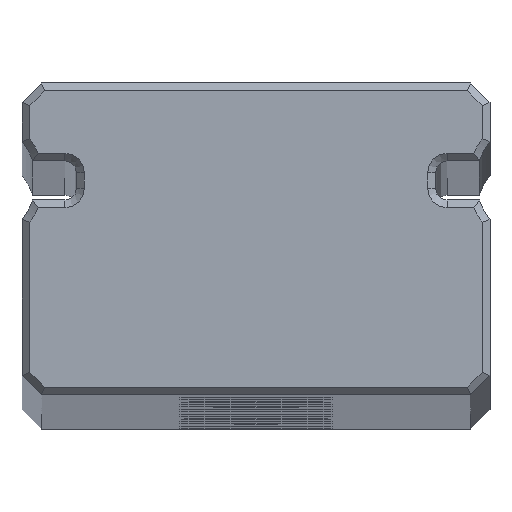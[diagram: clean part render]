
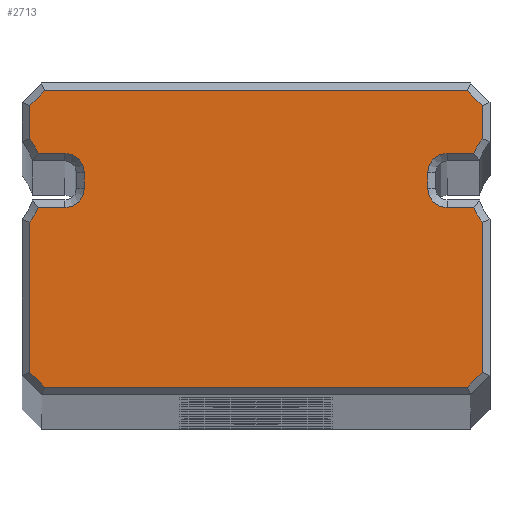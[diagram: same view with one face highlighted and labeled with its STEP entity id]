
A CAD part, top view. The second image highlights one B-rep face of the part: STEP entity #2713.
In plain terms, the highlighted planar face has unit normal (0, 0, 1).
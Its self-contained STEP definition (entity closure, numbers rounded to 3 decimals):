
#163=CIRCLE('',#2918,1.788);
#164=CIRCLE('',#2921,0.5);
#165=CIRCLE('',#2924,0.5);
#167=CIRCLE('',#2929,1.788);
#168=CIRCLE('',#2935,1.788);
#171=CIRCLE('',#2940,0.5);
#173=CIRCLE('',#2944,0.5);
#174=CIRCLE('',#2947,1.788);
#419=FACE_OUTER_BOUND('',#613,.T.);
#613=EDGE_LOOP('',(#2111,#2112,#2113,#2114,#2115,#2116,#2117,#2118,#2119,
#2120,#2121,#2122,#2123,#2124,#2125,#2126,#2127,#2128,#2129,#2130,#2131,
#2132,#2133,#2134));
#844=LINE('',#4346,#1044);
#847=LINE('',#4358,#1047);
#850=LINE('',#4366,#1050);
#852=LINE('',#4373,#1052);
#853=LINE('',#4381,#1053);
#856=LINE('',#4401,#1056);
#859=LINE('',#4407,#1059);
#863=LINE('',#4415,#1063);
#866=LINE('',#4419,#1066);
#869=LINE('',#4434,#1069);
#872=LINE('',#4445,#1072);
#875=LINE('',#4455,#1075);
#877=LINE('',#4470,#1077);
#879=LINE('',#4474,#1079);
#881=LINE('',#4478,#1081);
#883=LINE('',#4481,#1083);
#1044=VECTOR('',#3412,10.);
#1047=VECTOR('',#3421,10.);
#1050=VECTOR('',#3430,10.);
#1052=VECTOR('',#3438,10.);
#1053=VECTOR('',#3441,10.);
#1056=VECTOR('',#3452,10.);
#1059=VECTOR('',#3457,10.);
#1063=VECTOR('',#3463,10.);
#1066=VECTOR('',#3468,10.);
#1069=VECTOR('',#3479,10.);
#1072=VECTOR('',#3490,10.);
#1075=VECTOR('',#3501,10.);
#1077=VECTOR('',#3509,10.);
#1079=VECTOR('',#3513,10.);
#1081=VECTOR('',#3517,10.);
#1083=VECTOR('',#3521,10.);
#1256=VERTEX_POINT('',#4340);
#1257=VERTEX_POINT('',#4345);
#1258=VERTEX_POINT('',#4349);
#1259=VERTEX_POINT('',#4356);
#1260=VERTEX_POINT('',#4360);
#1261=VERTEX_POINT('',#4364);
#1262=VERTEX_POINT('',#4368);
#1263=VERTEX_POINT('',#4372);
#1264=VERTEX_POINT('',#4379);
#1265=VERTEX_POINT('',#4380);
#1269=VERTEX_POINT('',#4393);
#1270=VERTEX_POINT('',#4400);
#1272=VERTEX_POINT('',#4406);
#1275=VERTEX_POINT('',#4414);
#1276=VERTEX_POINT('',#4421);
#1279=VERTEX_POINT('',#4432);
#1281=VERTEX_POINT('',#4438);
#1283=VERTEX_POINT('',#4443);
#1285=VERTEX_POINT('',#4450);
#1286=VERTEX_POINT('',#4454);
#1287=VERTEX_POINT('',#4462);
#1288=VERTEX_POINT('',#4469);
#1289=VERTEX_POINT('',#4473);
#1290=VERTEX_POINT('',#4477);
#1529=EDGE_CURVE('',#1256,#1257,#844,.T.);
#1532=EDGE_CURVE('',#1258,#1256,#163,.T.);
#1534=EDGE_CURVE('',#1259,#1258,#847,.T.);
#1536=EDGE_CURVE('',#1260,#1259,#164,.T.);
#1538=EDGE_CURVE('',#1261,#1260,#850,.T.);
#1540=EDGE_CURVE('',#1262,#1261,#165,.T.);
#1541=EDGE_CURVE('',#1263,#1262,#852,.T.);
#1543=EDGE_CURVE('',#1264,#1265,#853,.T.);
#1549=EDGE_CURVE('',#1269,#1263,#167,.T.);
#1550=EDGE_CURVE('',#1265,#1270,#856,.T.);
#1553=EDGE_CURVE('',#1270,#1272,#859,.T.);
#1557=EDGE_CURVE('',#1272,#1275,#863,.T.);
#1560=EDGE_CURVE('',#1275,#1269,#866,.T.);
#1561=EDGE_CURVE('',#1276,#1264,#168,.T.);
#1566=EDGE_CURVE('',#1279,#1276,#869,.T.);
#1569=EDGE_CURVE('',#1281,#1279,#171,.T.);
#1571=EDGE_CURVE('',#1283,#1281,#872,.T.);
#1575=EDGE_CURVE('',#1285,#1283,#173,.T.);
#1576=EDGE_CURVE('',#1286,#1285,#875,.T.);
#1579=EDGE_CURVE('',#1287,#1286,#174,.T.);
#1581=EDGE_CURVE('',#1257,#1288,#877,.T.);
#1583=EDGE_CURVE('',#1289,#1287,#879,.T.);
#1585=EDGE_CURVE('',#1288,#1290,#881,.T.);
#1587=EDGE_CURVE('',#1290,#1289,#883,.T.);
#2111=ORIENTED_EDGE('',*,*,#1543,.F.);
#2112=ORIENTED_EDGE('',*,*,#1561,.F.);
#2113=ORIENTED_EDGE('',*,*,#1566,.F.);
#2114=ORIENTED_EDGE('',*,*,#1569,.F.);
#2115=ORIENTED_EDGE('',*,*,#1571,.F.);
#2116=ORIENTED_EDGE('',*,*,#1575,.F.);
#2117=ORIENTED_EDGE('',*,*,#1576,.F.);
#2118=ORIENTED_EDGE('',*,*,#1579,.F.);
#2119=ORIENTED_EDGE('',*,*,#1583,.F.);
#2120=ORIENTED_EDGE('',*,*,#1587,.F.);
#2121=ORIENTED_EDGE('',*,*,#1585,.F.);
#2122=ORIENTED_EDGE('',*,*,#1581,.F.);
#2123=ORIENTED_EDGE('',*,*,#1529,.F.);
#2124=ORIENTED_EDGE('',*,*,#1532,.F.);
#2125=ORIENTED_EDGE('',*,*,#1534,.F.);
#2126=ORIENTED_EDGE('',*,*,#1536,.F.);
#2127=ORIENTED_EDGE('',*,*,#1538,.F.);
#2128=ORIENTED_EDGE('',*,*,#1540,.F.);
#2129=ORIENTED_EDGE('',*,*,#1541,.F.);
#2130=ORIENTED_EDGE('',*,*,#1549,.F.);
#2131=ORIENTED_EDGE('',*,*,#1560,.F.);
#2132=ORIENTED_EDGE('',*,*,#1557,.F.);
#2133=ORIENTED_EDGE('',*,*,#1553,.F.);
#2134=ORIENTED_EDGE('',*,*,#1550,.F.);
#2620=PLANE('',#2959);
#2713=ADVANCED_FACE('',(#419),#2620,.T.);
#2918=AXIS2_PLACEMENT_3D('',#4354,#3416,#3417);
#2921=AXIS2_PLACEMENT_3D('',#4362,#3425,#3426);
#2924=AXIS2_PLACEMENT_3D('',#4370,#3434,#3435);
#2929=AXIS2_PLACEMENT_3D('',#4398,#3448,#3449);
#2935=AXIS2_PLACEMENT_3D('',#4422,#3471,#3472);
#2940=AXIS2_PLACEMENT_3D('',#4440,#3485,#3486);
#2944=AXIS2_PLACEMENT_3D('',#4452,#3497,#3498);
#2947=AXIS2_PLACEMENT_3D('',#4463,#3505,#3506);
#2959=AXIS2_PLACEMENT_3D('',#4496,#3543,#3544);
#3412=DIRECTION('',(0.,1.,0.));
#3416=DIRECTION('center_axis',(0.,0.,1.));
#3417=DIRECTION('ref_axis',(0.777,-0.63,0.));
#3421=DIRECTION('',(-1.,0.,0.));
#3425=DIRECTION('center_axis',(0.,0.,1.));
#3426=DIRECTION('ref_axis',(0.707,0.707,0.));
#3430=DIRECTION('',(0.,1.,0.));
#3434=DIRECTION('center_axis',(0.,0.,1.));
#3435=DIRECTION('ref_axis',(0.707,-0.707,0.));
#3438=DIRECTION('',(1.,0.,0.));
#3441=DIRECTION('',(0.,-1.,0.));
#3448=DIRECTION('center_axis',(0.,0.,1.));
#3449=DIRECTION('ref_axis',(0.777,-0.63,0.));
#3452=DIRECTION('',(-0.707,-0.707,0.));
#3457=DIRECTION('',(-1.,0.,0.));
#3463=DIRECTION('',(-0.707,0.707,0.));
#3468=DIRECTION('',(0.,1.,0.));
#3471=DIRECTION('center_axis',(0.,0.,1.));
#3472=DIRECTION('ref_axis',(-0.777,0.63,0.));
#3479=DIRECTION('',(1.,0.,0.));
#3485=DIRECTION('center_axis',(0.,0.,1.));
#3486=DIRECTION('ref_axis',(-0.707,-0.707,0.));
#3490=DIRECTION('',(0.,-1.,0.));
#3497=DIRECTION('center_axis',(0.,0.,1.));
#3498=DIRECTION('ref_axis',(-0.707,0.707,0.));
#3501=DIRECTION('',(-1.,0.,0.));
#3505=DIRECTION('center_axis',(0.,0.,1.));
#3506=DIRECTION('ref_axis',(-0.777,0.63,0.));
#3509=DIRECTION('',(0.707,0.707,0.));
#3513=DIRECTION('',(0.,-1.,0.));
#3517=DIRECTION('',(1.,0.,0.));
#3521=DIRECTION('',(0.707,-0.707,0.));
#3543=DIRECTION('center_axis',(0.,0.,1.));
#3544=DIRECTION('ref_axis',(1.,0.,0.));
#4340=CARTESIAN_POINT('',(-5.8,6.569,0.));
#4345=CARTESIAN_POINT('',(-5.8,7.417,0.));
#4346=CARTESIAN_POINT('',(-5.8,5.25,0.));
#4349=CARTESIAN_POINT('',(-5.588,6.2,0.));
#4354=CARTESIAN_POINT('Origin',(-7.233,5.5,0.));
#4356=CARTESIAN_POINT('',(-4.9,6.2,0.));
#4358=CARTESIAN_POINT('',(-2.3,6.2,0.));
#4360=CARTESIAN_POINT('',(-4.4,5.7,0.));
#4362=CARTESIAN_POINT('Origin',(-4.9,5.7,0.));
#4364=CARTESIAN_POINT('',(-4.4,5.3,0.));
#4366=CARTESIAN_POINT('',(-4.4,4.5,0.));
#4368=CARTESIAN_POINT('',(-4.9,4.8,0.));
#4370=CARTESIAN_POINT('Origin',(-4.9,5.3,0.));
#4372=CARTESIAN_POINT('',(-5.588,4.8,0.));
#4373=CARTESIAN_POINT('',(-2.863,4.8,0.));
#4379=CARTESIAN_POINT('',(5.8,4.431,0.));
#4380=CARTESIAN_POINT('',(5.8,0.583,0.));
#4381=CARTESIAN_POINT('',(5.8,4.25,0.));
#4393=CARTESIAN_POINT('',(-5.8,4.431,0.));
#4398=CARTESIAN_POINT('Origin',(-7.233,5.5,0.));
#4400=CARTESIAN_POINT('',(5.417,0.2,0.));
#4401=CARTESIAN_POINT('',(5.109,-0.109,0.));
#4406=CARTESIAN_POINT('',(-5.417,0.2,0.));
#4407=CARTESIAN_POINT('',(3.,0.2,0.));
#4414=CARTESIAN_POINT('',(-5.8,0.583,0.));
#4415=CARTESIAN_POINT('',(-5.109,-0.109,0.));
#4419=CARTESIAN_POINT('',(-5.8,2.,0.));
#4421=CARTESIAN_POINT('',(5.588,4.8,0.));
#4422=CARTESIAN_POINT('Origin',(7.233,5.5,0.));
#4432=CARTESIAN_POINT('',(4.9,4.8,0.));
#4434=CARTESIAN_POINT('',(2.3,4.8,0.));
#4438=CARTESIAN_POINT('',(4.4,5.3,0.));
#4440=CARTESIAN_POINT('Origin',(4.9,5.3,0.));
#4443=CARTESIAN_POINT('',(4.4,5.7,0.));
#4445=CARTESIAN_POINT('',(4.4,5.,0.));
#4450=CARTESIAN_POINT('',(4.9,6.2,0.));
#4452=CARTESIAN_POINT('Origin',(4.9,5.7,0.));
#4454=CARTESIAN_POINT('',(5.588,6.2,0.));
#4455=CARTESIAN_POINT('',(2.863,6.2,0.));
#4462=CARTESIAN_POINT('',(5.8,6.569,0.));
#4463=CARTESIAN_POINT('Origin',(7.233,5.5,0.));
#4469=CARTESIAN_POINT('',(-5.417,7.8,0.));
#4470=CARTESIAN_POINT('',(-5.109,8.109,0.));
#4473=CARTESIAN_POINT('',(5.8,7.417,0.));
#4474=CARTESIAN_POINT('',(5.8,6.,0.));
#4477=CARTESIAN_POINT('',(5.417,7.8,0.));
#4478=CARTESIAN_POINT('',(-3.,7.8,0.));
#4481=CARTESIAN_POINT('',(5.109,8.109,0.));
#4496=CARTESIAN_POINT('Origin',(0.,4.,0.));
